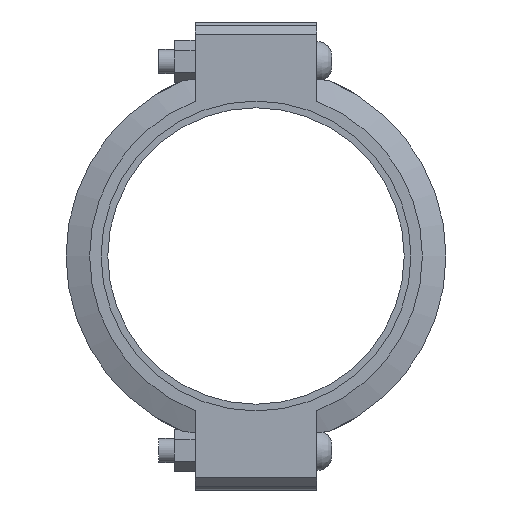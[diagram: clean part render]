
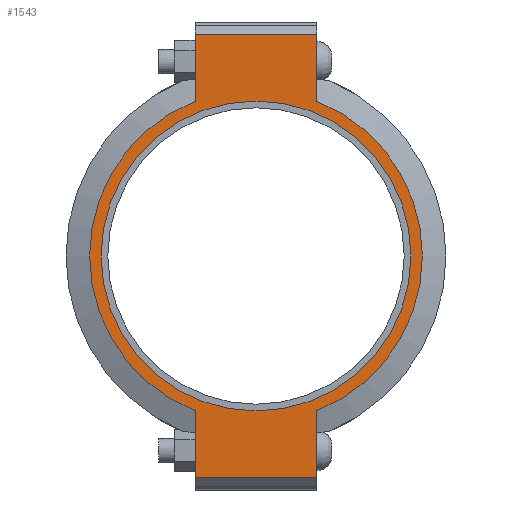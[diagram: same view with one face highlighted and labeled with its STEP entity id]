
A CAD part, left-side view. The second image highlights one B-rep face of the part: STEP entity #1543.
In plain terms, the highlighted planar face has unit normal (-1, 0, 0) as drawn and (0, 0, 1) by its records, which use the part's own axes.
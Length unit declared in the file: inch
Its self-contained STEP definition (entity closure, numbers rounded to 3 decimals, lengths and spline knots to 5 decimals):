
#170=LINE('',#2631,#257);
#181=LINE('',#2682,#268);
#187=LINE('',#2708,#274);
#189=LINE('',#2711,#276);
#190=LINE('',#2716,#277);
#191=LINE('',#2717,#278);
#257=VECTOR('',#2125,0.3937);
#268=VECTOR('',#2156,0.3937);
#274=VECTOR('',#2174,0.3937);
#276=VECTOR('',#2178,0.3937);
#277=VECTOR('',#2183,0.3937);
#278=VECTOR('',#2184,0.3937);
#336=FACE_BOUND('',#495,.T.);
#396=FACE_OUTER_BOUND('',#494,.T.);
#494=EDGE_LOOP('',(#1232,#1233,#1234,#1235,#1236,#1237,#1238,#1239));
#495=EDGE_LOOP('',(#1240));
#600=CIRCLE('',#1788,6.84375);
#601=CIRCLE('',#1789,6.84375);
#602=CIRCLE('',#1790,6.375);
#709=VERTEX_POINT('',#2628);
#710=VERTEX_POINT('',#2630);
#727=VERTEX_POINT('',#2677);
#728=VERTEX_POINT('',#2681);
#735=VERTEX_POINT('',#2703);
#736=VERTEX_POINT('',#2707);
#737=VERTEX_POINT('',#2713);
#738=VERTEX_POINT('',#2715);
#739=VERTEX_POINT('',#2719);
#879=EDGE_CURVE('',#710,#709,#170,.T.);
#900=EDGE_CURVE('',#728,#727,#181,.T.);
#911=EDGE_CURVE('',#736,#735,#187,.T.);
#913=EDGE_CURVE('',#736,#709,#189,.T.);
#914=EDGE_CURVE('',#735,#737,#600,.T.);
#915=EDGE_CURVE('',#737,#738,#190,.T.);
#916=EDGE_CURVE('',#728,#738,#191,.T.);
#917=EDGE_CURVE('',#727,#710,#601,.T.);
#918=EDGE_CURVE('',#739,#739,#602,.T.);
#1232=ORIENTED_EDGE('',*,*,#913,.F.);
#1233=ORIENTED_EDGE('',*,*,#911,.T.);
#1234=ORIENTED_EDGE('',*,*,#914,.T.);
#1235=ORIENTED_EDGE('',*,*,#915,.T.);
#1236=ORIENTED_EDGE('',*,*,#916,.F.);
#1237=ORIENTED_EDGE('',*,*,#900,.T.);
#1238=ORIENTED_EDGE('',*,*,#917,.T.);
#1239=ORIENTED_EDGE('',*,*,#879,.T.);
#1240=ORIENTED_EDGE('',*,*,#918,.T.);
#1395=PLANE('',#1787);
#1543=ADVANCED_FACE('',(#396,#336),#1395,.T.);
#1787=AXIS2_PLACEMENT_3D('',#2712,#2179,#2180);
#1788=AXIS2_PLACEMENT_3D('',#2714,#2181,#2182);
#1789=AXIS2_PLACEMENT_3D('',#2718,#2185,#2186);
#1790=AXIS2_PLACEMENT_3D('',#2720,#2187,#2188);
#2125=DIRECTION('',(-1.,0.,0.));
#2156=DIRECTION('',(-1.,0.,0.));
#2174=DIRECTION('',(1.,0.,0.));
#2178=DIRECTION('',(0.,1.,0.));
#2179=DIRECTION('center_axis',(0.,0.,1.));
#2180=DIRECTION('ref_axis',(1.,0.,0.));
#2181=DIRECTION('center_axis',(0.,0.,1.));
#2182=DIRECTION('ref_axis',(-1.,0.,0.));
#2183=DIRECTION('',(1.,0.,0.));
#2184=DIRECTION('',(0.,-1.,0.));
#2185=DIRECTION('center_axis',(0.,0.,1.));
#2186=DIRECTION('ref_axis',(-1.,0.,0.));
#2187=DIRECTION('center_axis',(0.,0.,-1.));
#2188=DIRECTION('ref_axis',(-1.,0.,0.));
#2628=CARTESIAN_POINT('',(-9.125,2.5,1.315));
#2630=CARTESIAN_POINT('',(-6.37079,2.5,1.315));
#2631=CARTESIAN_POINT('',(9.625,2.5,1.315));
#2677=CARTESIAN_POINT('',(6.37079,2.5,1.315));
#2681=CARTESIAN_POINT('',(9.125,2.5,1.315));
#2682=CARTESIAN_POINT('',(9.625,2.5,1.315));
#2703=CARTESIAN_POINT('',(-6.37079,-2.5,1.315));
#2707=CARTESIAN_POINT('',(-9.125,-2.5,1.315));
#2708=CARTESIAN_POINT('',(-9.625,-2.5,1.315));
#2711=CARTESIAN_POINT('',(-9.125,1.25,1.315));
#2712=CARTESIAN_POINT('Origin',(0.,0.,
1.315));
#2713=CARTESIAN_POINT('',(6.37079,-2.5,1.315));
#2714=CARTESIAN_POINT('Origin',(0.,0.,1.315));
#2715=CARTESIAN_POINT('',(9.125,-2.5,1.315));
#2716=CARTESIAN_POINT('',(-9.625,-2.5,1.315));
#2717=CARTESIAN_POINT('',(9.125,-1.25,1.315));
#2718=CARTESIAN_POINT('Origin',(0.,0.,1.315));
#2719=CARTESIAN_POINT('',(6.375,0.,1.315));
#2720=CARTESIAN_POINT('Origin',(0.,0.,1.315));
